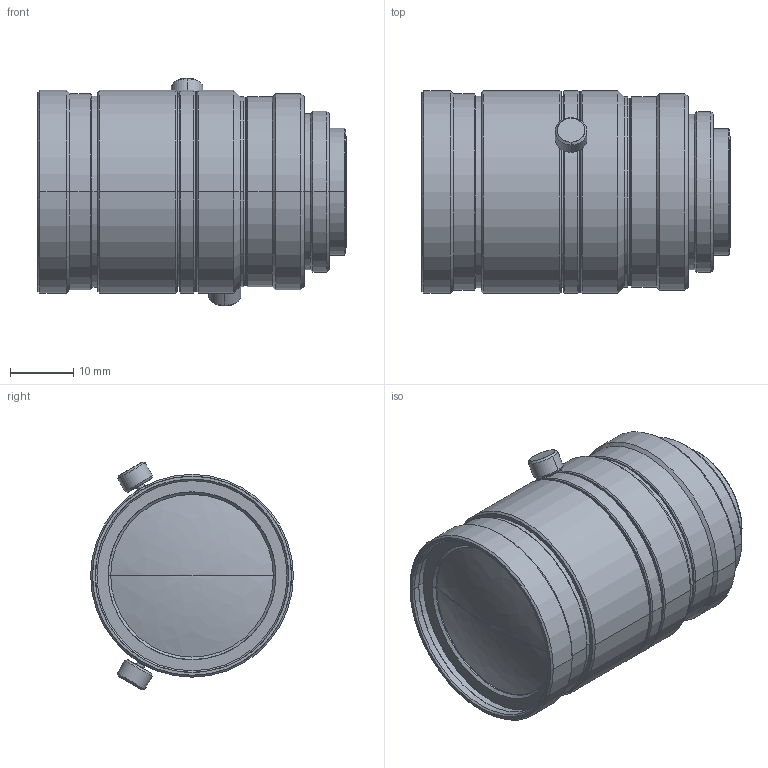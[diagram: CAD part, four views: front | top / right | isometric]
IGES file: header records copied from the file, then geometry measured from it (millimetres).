
Start section: SolidWorks IGES file using analytic representation for surfaces
Global section: file name: \\192.168.1.203\Development\06 俠俠俿倁儗儞僘\01 SV-V series\075 SV-7527V\3D\SV-7527V.IGS; native system: SolidWorks 2012; preprocessor: SolidWorks 2012; author: a-3DCAD2; date: 120601.160954; units: millimetre
Bounding box: 48.62 x 32 x 35.95 mm (x, y, z)
Surface area: 7338.2 mm2 (no closed solid volume)
Topology: 0 solids, 0 shells, 132 faces, 2332 edges, 2328 vertices
Faces by surface type: revolution 108, bspline 24
